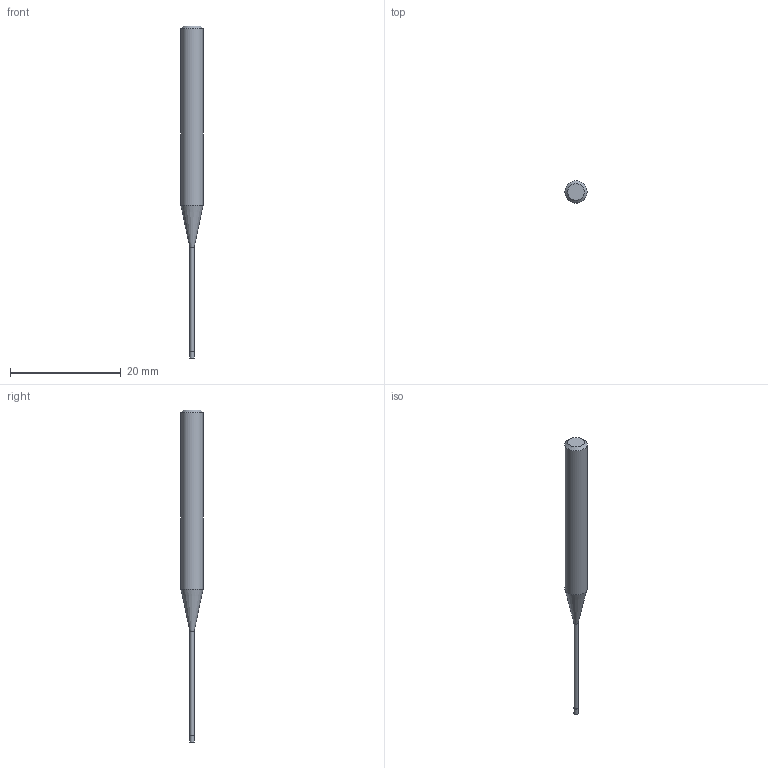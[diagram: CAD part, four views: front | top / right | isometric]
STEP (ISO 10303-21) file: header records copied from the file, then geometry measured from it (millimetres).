
FILE_DESCRIPTION((''),'2;1');
FILE_NAME('C:\Users\nsx150\AppData\Local\Temp\Mastercam 2021\17T8Q8S9EB\TEMP.step','2021-04-21T14:25:27',(''),(''),'STEP Write','Mastercam 2021 ... CNC Software, Inc.','');
FILE_SCHEMA(('AUTOMOTIVE_DESIGN'));
Length unit declared in the file: millimetre
Products named in the file (1): None
Bounding box: 4 x 4 x 60 mm (x, y, z)
Volume: 453.7 mm3; surface area: 523.1 mm2
Topology: 2 solids, 2 shells, 9 faces, 12 edges, 7 vertices
Faces by surface type: plane 4, cylinder 3, cone 2
Full cylindrical faces by diameter (mm): 0.76 x1, 0.8 x1, 4 x1
Entity records: 211 total; most frequent: DIRECTION 36, CARTESIAN_POINT 25, AXIS2_PLACEMENT_3D 18, ORIENTED_EDGE 14, EDGE_LOOP 14, STYLED_ITEM 12, ADVANCED_FACE 9, FACE_BOUND 8
